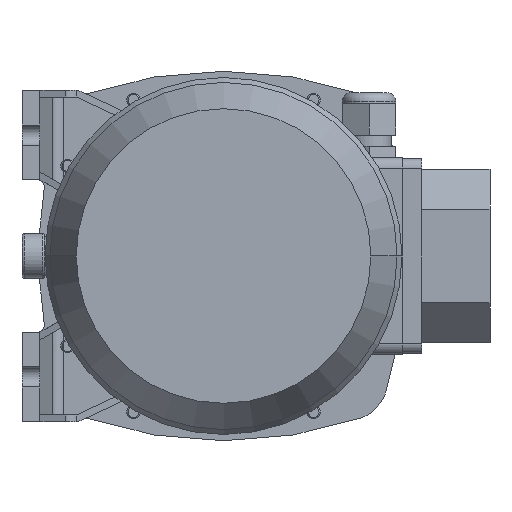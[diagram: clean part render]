
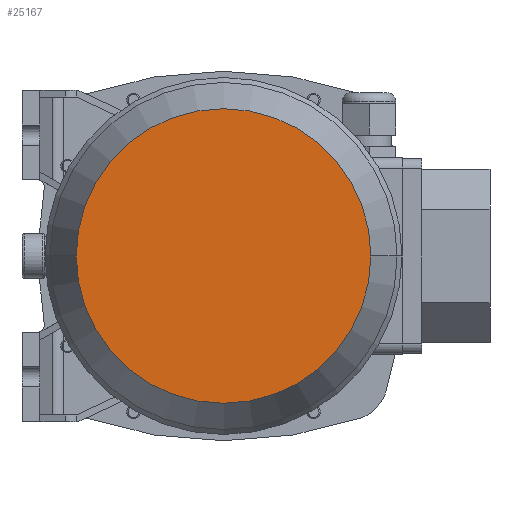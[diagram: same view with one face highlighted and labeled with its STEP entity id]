
A CAD part, front view. The second image highlights one B-rep face of the part: STEP entity #25167.
In plain terms, the highlighted planar face has unit normal (0, -1, 0) as drawn and (1, 0, 0) by its records, which use the part's own axes.
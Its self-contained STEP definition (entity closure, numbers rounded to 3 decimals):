
#18479=CARTESIAN_POINT('',(216.,0.,0.));
#18480=DIRECTION('',(-1.,0.,0.));
#18481=DIRECTION('',(0.,1.,0.));
#18482=AXIS2_PLACEMENT_3D('',#18479,#18480,#18481);
#18487=CARTESIAN_POINT('',(216.,0.,0.));
#18488=DIRECTION('',(1.,0.,0.));
#18489=DIRECTION('',(0.,1.,0.));
#18490=AXIS2_PLACEMENT_3D('',#18487,#18488,#18489);
#20460=CARTESIAN_POINT('',(216.,65.794,0.));
#20462=VERTEX_POINT('',#20460);
#20470=CARTESIAN_POINT('',(216.,-65.794,0.));
#20472=VERTEX_POINT('',#20470);
#25158=CARTESIAN_POINT('',(216.,0.,0.));
#25159=DIRECTION('',(1.,0.,0.));
#25160=DIRECTION('',(0.,-1.,0.));
#25161=AXIS2_PLACEMENT_3D('',#25158,#25159,#25160);
#25162=PLANE('',#25161);
#25163=ORIENTED_EDGE('',*,*,#25140,.T.);
#25164=ORIENTED_EDGE('',*,*,#25151,.F.);
#25165=EDGE_LOOP('',(#25163,#25164));
#25166=FACE_OUTER_BOUND('',#25165,.F.);
#18483=CIRCLE('',#18482,65.794);
#18491=CIRCLE('',#18490,65.794);
#25140=EDGE_CURVE('',#20462,#20472,#18483,.T.);
#25151=EDGE_CURVE('',#20462,#20472,#18491,.T.);
#25167=ADVANCED_FACE('',(#25166),#25162,.T.);
